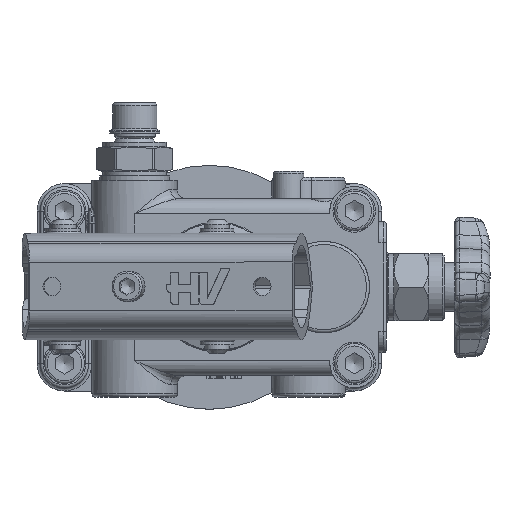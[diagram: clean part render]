
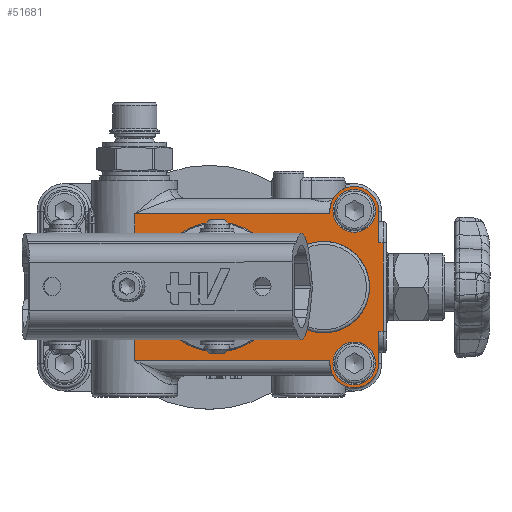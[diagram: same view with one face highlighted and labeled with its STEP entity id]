
A CAD part, top view. The second image highlights one B-rep face of the part: STEP entity #51681.
In plain terms, the highlighted planar face has unit normal (0, 0, 1).
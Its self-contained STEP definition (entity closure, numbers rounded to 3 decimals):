
#45714=CARTESIAN_POINT('',(111.0,9.,43.));
#45715=VERTEX_POINT('',#45714);
#45716=CARTESIAN_POINT('',(104.0,9.,43.));
#45717=DIRECTION('',(0.0,0.0,-1.0));
#45718=DIRECTION('',(1.0,0.0,0.0));
#45719=AXIS2_PLACEMENT_3D('',#45716,#45717,#45718);
#45720=CIRCLE('',#45719,7.);
#45721=EDGE_CURVE('',#45715,#45715,#45720,.T.);
#45762=CARTESIAN_POINT('',(111.,59.,43.));
#45763=VERTEX_POINT('',#45762);
#45764=CARTESIAN_POINT('',(104.,59.,43.));
#45765=DIRECTION('',(0.0,0.0,-1.0));
#45766=DIRECTION('',(1.0,0.0,0.0));
#45767=AXIS2_PLACEMENT_3D('',#45764,#45765,#45766);
#45768=CIRCLE('',#45767,7.);
#45769=EDGE_CURVE('',#45763,#45763,#45768,.T.);
#47303=CARTESIAN_POINT('',(112.,9.,43.));
#47304=VERTEX_POINT('',#47303);
#47311=CARTESIAN_POINT('',(96.0,9.,43.));
#47312=VERTEX_POINT('',#47311);
#47313=CARTESIAN_POINT('',(104.0,9.,43.));
#47314=DIRECTION('',(0.0,0.0,-1.0));
#47315=DIRECTION('',(-1.0,0.0,0.0));
#47316=AXIS2_PLACEMENT_3D('',#47313,#47314,#47315);
#47317=CIRCLE('',#47316,8.0);
#47318=EDGE_CURVE('',#47304,#47312,#47317,.T.);
#47456=CARTESIAN_POINT('',(83.0,23.802,43.));
#47457=VERTEX_POINT('',#47456);
#47465=CARTESIAN_POINT('',(83.0,44.198,43.));
#47466=VERTEX_POINT('',#47465);
#47467=CARTESIAN_POINT('',(94.,34.0,43.));
#47468=DIRECTION('',(0.0,0.0,-1.0));
#47469=DIRECTION('',(-1.0,0.0,0.0));
#47470=AXIS2_PLACEMENT_3D('',#47467,#47468,#47469);
#47471=CIRCLE('',#47470,15.0);
#47472=EDGE_CURVE('',#47466,#47457,#47471,.T.);
#47491=CARTESIAN_POINT('',(83.0,23.802,43.));
#47492=DIRECTION('',(0.0,1.0,0.0));
#47493=VECTOR('',#47492,20.396);
#47494=LINE('',#47491,#47493);
#47495=EDGE_CURVE('',#47457,#47466,#47494,.T.);
#47911=CARTESIAN_POINT('',(96.,59.,43.));
#47912=VERTEX_POINT('',#47911);
#47919=CARTESIAN_POINT('',(112.0,59.,43.));
#47920=VERTEX_POINT('',#47919);
#47921=CARTESIAN_POINT('',(104.,59.,43.));
#47922=DIRECTION('',(0.0,0.0,-1.0));
#47923=DIRECTION('',(1.0,0.0,0.0));
#47924=AXIS2_PLACEMENT_3D('',#47921,#47922,#47923);
#47925=CIRCLE('',#47924,8.0);
#47926=EDGE_CURVE('',#47912,#47920,#47925,.T.);
#47951=CARTESIAN_POINT('',(32.,58.,43.));
#47952=VERTEX_POINT('',#47951);
#47968=CARTESIAN_POINT('',(96.,58.,43.));
#47969=VERTEX_POINT('',#47968);
#47970=CARTESIAN_POINT('',(96.,58.,43.));
#47971=DIRECTION('',(-1.0,0.0,0.0));
#47972=VECTOR('',#47971,64.);
#47973=LINE('',#47970,#47972);
#47974=EDGE_CURVE('',#47969,#47952,#47973,.T.);
#48778=CARTESIAN_POINT('',(32.,44.122,43.));
#48779=VERTEX_POINT('',#48778);
#48790=CARTESIAN_POINT('',(32.0,44.122,43.0));
#48791=DIRECTION('',(0.0,1.0,0.0));
#48792=VECTOR('',#48791,13.878);
#48793=LINE('',#48790,#48792);
#48794=EDGE_CURVE('',#48779,#47952,#48793,.T.);
#49490=CARTESIAN_POINT('',(32.,10.0,43.));
#49491=VERTEX_POINT('',#49490);
#49960=CARTESIAN_POINT('',(32.,23.878,43.));
#49961=VERTEX_POINT('',#49960);
#49962=CARTESIAN_POINT('',(32.0,10.,43.0));
#49963=DIRECTION('',(0.0,1.0,0.0));
#49964=VECTOR('',#49963,13.878);
#49965=LINE('',#49962,#49964);
#49966=EDGE_CURVE('',#49491,#49961,#49965,.T.);
#50059=CARTESIAN_POINT('',(96.0,10.0,43.));
#50060=VERTEX_POINT('',#50059);
#50068=CARTESIAN_POINT('',(96.0,10.0,43.));
#50069=DIRECTION('',(-1.0,0.0,0.0));
#50070=VECTOR('',#50069,64.);
#50071=LINE('',#50068,#50070);
#50072=EDGE_CURVE('',#50060,#49491,#50071,.T.);
#51295=CARTESIAN_POINT('',(113.5,48.5,43.));
#51296=VERTEX_POINT('',#51295);
#51329=CARTESIAN_POINT('',(113.5,19.5,43.));
#51330=VERTEX_POINT('',#51329);
#51341=CARTESIAN_POINT('',(113.5,48.5,43.));
#51342=DIRECTION('',(0.0,-1.0,0.0));
#51343=VECTOR('',#51342,29.);
#51344=LINE('',#51341,#51343);
#51345=EDGE_CURVE('',#51296,#51330,#51344,.T.);
#51568=CARTESIAN_POINT('',(112.0,19.5,43.));
#51569=VERTEX_POINT('',#51568);
#51570=CARTESIAN_POINT('',(112.0,19.5,43.));
#51571=DIRECTION('',(1.0,0.0,0.0));
#51572=VECTOR('',#51571,1.5);
#51573=LINE('',#51570,#51572);
#51574=EDGE_CURVE('',#51569,#51330,#51573,.T.);
#51587=CARTESIAN_POINT('',(104.,34.,43.));
#51588=DIRECTION('',(0.0,0.0,1.0));
#51589=DIRECTION('',(1.0,0.0,0.0));
#51590=AXIS2_PLACEMENT_3D('',#51587,#51588,#51589);
#51591=PLANE('',#51590);
#51592=ORIENTED_EDGE('',*,*,#51345,.F.);
#51593=CARTESIAN_POINT('',(112.,48.5,43.));
#51594=VERTEX_POINT('',#51593);
#51595=CARTESIAN_POINT('',(112.,48.5,43.));
#51596=DIRECTION('',(1.0,0.0,0.0));
#51597=VECTOR('',#51596,1.5);
#51598=LINE('',#51595,#51597);
#51599=EDGE_CURVE('',#51594,#51296,#51598,.T.);
#51600=ORIENTED_EDGE('',*,*,#51599,.F.);
#51601=CARTESIAN_POINT('',(112.0,59.,43.));
#51602=DIRECTION('',(0.0,-1.0,0.0));
#51603=VECTOR('',#51602,10.5);
#51604=LINE('',#51601,#51603);
#51605=EDGE_CURVE('',#47920,#51594,#51604,.T.);
#51606=ORIENTED_EDGE('',*,*,#51605,.F.);
#51607=ORIENTED_EDGE('',*,*,#47926,.F.);
#51608=CARTESIAN_POINT('',(96.,58.,43.));
#51609=DIRECTION('',(0.0,1.0,0.0));
#51610=VECTOR('',#51609,1.);
#51611=LINE('',#51608,#51610);
#51612=EDGE_CURVE('',#47969,#47912,#51611,.T.);
#51613=ORIENTED_EDGE('',*,*,#51612,.F.);
#51614=ORIENTED_EDGE('',*,*,#47974,.T.);
#51615=ORIENTED_EDGE('',*,*,#48794,.F.);
#51616=CARTESIAN_POINT('',(33.732,41.0,43.));
#51617=VERTEX_POINT('',#51616);
#51618=CARTESIAN_POINT('',(33.732,41.0,43.));
#51619=CARTESIAN_POINT('',(33.732,41.528,43.));
#51620=CARTESIAN_POINT('',(33.438,42.767,43.));
#51621=CARTESIAN_POINT('',(32.582,43.719,43.));
#51622=CARTESIAN_POINT('',(32.,44.122,43.));
#51623=B_SPLINE_CURVE_WITH_KNOTS('',3,(#51618,#51619,#51620,#51621,#51622),.UNSPECIFIED.,.F.,.U.,(4,1,4),(2.696,2.855,3.066),.UNSPECIFIED.);
#51624=EDGE_CURVE('',#51617,#48779,#51623,.T.);
#51625=ORIENTED_EDGE('',*,*,#51624,.F.);
#51626=CARTESIAN_POINT('',(33.732,27.,43.));
#51627=VERTEX_POINT('',#51626);
#51628=CARTESIAN_POINT('',(33.732,27.,43.));
#51629=DIRECTION('',(0.0,1.0,0.0));
#51630=VECTOR('',#51629,14.);
#51631=LINE('',#51628,#51630);
#51632=EDGE_CURVE('',#51627,#51617,#51631,.T.);
#51633=ORIENTED_EDGE('',*,*,#51632,.F.);
#51634=CARTESIAN_POINT('',(32.,23.878,43.));
#51635=CARTESIAN_POINT('',(32.433,24.178,43.));
#51636=CARTESIAN_POINT('',(33.336,25.067,43.));
#51637=CARTESIAN_POINT('',(33.732,26.29,43.0));
#51638=CARTESIAN_POINT('',(33.732,27.,43.));
#51639=B_SPLINE_CURVE_WITH_KNOTS('',3,(#51634,#51635,#51636,#51637,#51638),.UNSPECIFIED.,.F.,.U.,(4,1,4),(2.696,2.854,3.065),.UNSPECIFIED.);
#51640=EDGE_CURVE('',#49961,#51627,#51639,.T.);
#51641=ORIENTED_EDGE('',*,*,#51640,.F.);
#51642=ORIENTED_EDGE('',*,*,#49966,.F.);
#51643=ORIENTED_EDGE('',*,*,#50072,.F.);
#51644=CARTESIAN_POINT('',(96.,9.,43.));
#51645=DIRECTION('',(0.0,1.0,0.0));
#51646=VECTOR('',#51645,1.);
#51647=LINE('',#51644,#51646);
#51648=EDGE_CURVE('',#47312,#50060,#51647,.T.);
#51649=ORIENTED_EDGE('',*,*,#51648,.F.);
#51650=ORIENTED_EDGE('',*,*,#47318,.F.);
#51651=CARTESIAN_POINT('',(112.,19.5,43.));
#51652=DIRECTION('',(0.0,-1.0,0.0));
#51653=VECTOR('',#51652,10.5);
#51654=LINE('',#51651,#51653);
#51655=EDGE_CURVE('',#51569,#47304,#51654,.T.);
#51656=ORIENTED_EDGE('',*,*,#51655,.F.);
#51657=ORIENTED_EDGE('',*,*,#51574,.T.);
#51658=EDGE_LOOP('',(#51592,#51600,#51606,#51607,#51613,#51614,#51615,#51625,#51633,#51641,#51642,#51643,#51649,#51650,#51656,#51657));
#51659=FACE_OUTER_BOUND('',#51658,.T.);
#51660=ORIENTED_EDGE('',*,*,#45721,.T.);
#51661=EDGE_LOOP('',(#51660));
#51662=FACE_BOUND('',#51661,.T.);
#51663=ORIENTED_EDGE('',*,*,#45769,.T.);
#51664=EDGE_LOOP('',(#51663));
#51665=FACE_BOUND('',#51664,.T.);
#51666=ORIENTED_EDGE('',*,*,#47472,.T.);
#51667=ORIENTED_EDGE('',*,*,#47495,.T.);
#51668=EDGE_LOOP('',(#51666,#51667));
#51669=FACE_BOUND('',#51668,.T.);
#51670=CARTESIAN_POINT('',(46.28,21.264,43.));
#51671=VERTEX_POINT('',#51670);
#51672=CARTESIAN_POINT('',(59.,34.0,43.));
#51673=DIRECTION('',(0.0,0.0,1.0));
#51674=DIRECTION('',(0.707,0.708,0.0));
#51675=AXIS2_PLACEMENT_3D('',#51672,#51673,#51674);
#51676=CIRCLE('',#51675,18.);
#51677=EDGE_CURVE('',#51671,#51671,#51676,.T.);
#51678=ORIENTED_EDGE('',*,*,#51677,.F.);
#51679=EDGE_LOOP('',(#51678));
#51680=FACE_BOUND('',#51679,.T.);
#51681=ADVANCED_FACE('',(#51659,#51662,#51665,#51669,#51680),#51591,.T.);
